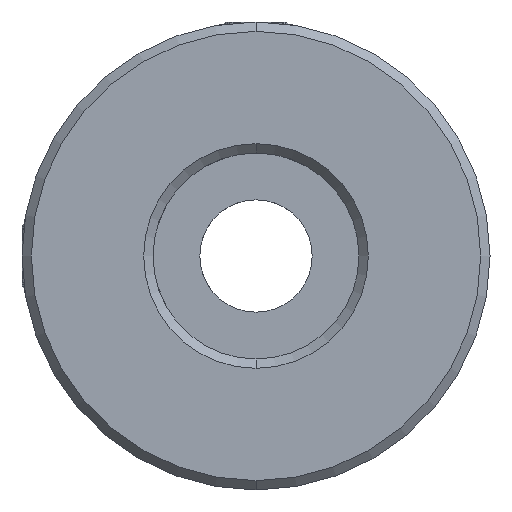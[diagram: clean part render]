
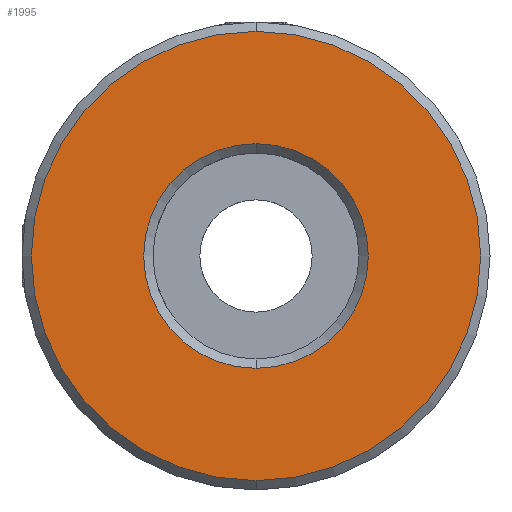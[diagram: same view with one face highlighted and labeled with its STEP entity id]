
A CAD part, front view. The second image highlights one B-rep face of the part: STEP entity #1995.
In plain terms, the highlighted planar face has unit normal (0, -1, 0).
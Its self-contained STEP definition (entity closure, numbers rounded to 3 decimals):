
#130 = ORIENTED_EDGE ( 'NONE', *, *, #920, .T. ) ;
#230 = CARTESIAN_POINT ( 'NONE',  ( -10.188, -0.277, 0.046 ) ) ;
#436 = DIRECTION ( 'NONE',  ( 0., 0., 1. ) ) ;
#452 = AXIS2_PLACEMENT_3D ( 'NONE', #3665, #2153, #436 ) ;
#581 = DIRECTION ( 'NONE',  ( 0., 1., 0. ) ) ;
#783 = CARTESIAN_POINT ( 'NONE',  ( -10.188, -0.277, 12.046 ) ) ;
#867 = AXIS2_PLACEMENT_3D ( 'NONE', #230, #2524, #2188 ) ;
#920 = EDGE_CURVE ( 'NONE', #1316, #1389, #3164, .T. ) ;
#1066 = CARTESIAN_POINT ( 'NONE',  ( -10.188, -0.277, 0.046 ) ) ;
#1091 = ORIENTED_EDGE ( 'NONE', *, *, #2778, .T. ) ;
#1146 = VERTEX_POINT ( 'NONE', #3247 ) ;
#1159 = CIRCLE ( 'NONE', #2839, 6. ) ;
#1316 = VERTEX_POINT ( 'NONE', #2099 ) ;
#1318 = EDGE_CURVE ( 'NONE', #1389, #1316, #2981, .T. ) ;
#1389 = VERTEX_POINT ( 'NONE', #783 ) ;
#1457 = CARTESIAN_POINT ( 'NONE',  ( -10.188, -0.277, 0.046 ) ) ;
#1492 = FACE_OUTER_BOUND ( 'NONE', #3689, .T. ) ;
#1505 = ORIENTED_EDGE ( 'NONE', *, *, #1318, .T. ) ;
#1810 = CIRCLE ( 'NONE', #2537, 6. ) ;
#1875 = CARTESIAN_POINT ( 'NONE',  ( -10.188, -0.277, 0.046 ) ) ;
#1995 = ADVANCED_FACE ( 'NONE', ( #1492, #3719 ), #3176, .F. ) ;
#2006 = VERTEX_POINT ( 'NONE', #3196 ) ;
#2099 = CARTESIAN_POINT ( 'NONE',  ( -10.188, -0.277, -11.954 ) ) ;
#2153 = DIRECTION ( 'NONE',  ( 0., -1., 0. ) ) ;
#2188 = DIRECTION ( 'NONE',  ( 0., 0., 1. ) ) ;
#2213 = EDGE_CURVE ( 'NONE', #1146, #2006, #1810, .T. ) ;
#2424 = DIRECTION ( 'NONE',  ( 0., 0., 1. ) ) ;
#2524 = DIRECTION ( 'NONE',  ( 0., -1., 0. ) ) ;
#2537 = AXIS2_PLACEMENT_3D ( 'NONE', #1066, #3352, #3038 ) ;
#2660 = ORIENTED_EDGE ( 'NONE', *, *, #2213, .T. ) ;
#2756 = DIRECTION ( 'NONE',  ( 0., 1., 0. ) ) ;
#2778 = EDGE_CURVE ( 'NONE', #2006, #1146, #1159, .T. ) ;
#2839 = AXIS2_PLACEMENT_3D ( 'NONE', #1875, #2756, #2424 ) ;
#2936 = EDGE_LOOP ( 'NONE', ( #2660, #1091 ) ) ;
#2981 = CIRCLE ( 'NONE', #452, 12. ) ;
#3038 = DIRECTION ( 'NONE',  ( 0., 0., 1. ) ) ;
#3164 = CIRCLE ( 'NONE', #867, 12. ) ;
#3176 = PLANE ( 'NONE',  #3273 ) ;
#3196 = CARTESIAN_POINT ( 'NONE',  ( -10.188, -0.277, 6.046 ) ) ;
#3247 = CARTESIAN_POINT ( 'NONE',  ( -10.188, -0.277, -5.954 ) ) ;
#3273 = AXIS2_PLACEMENT_3D ( 'NONE', #1457, #581, #3460 ) ;
#3352 = DIRECTION ( 'NONE',  ( 0., 1., 0. ) ) ;
#3460 = DIRECTION ( 'NONE',  ( 0., 0., 1. ) ) ;
#3665 = CARTESIAN_POINT ( 'NONE',  ( -10.188, -0.277, 0.046 ) ) ;
#3689 = EDGE_LOOP ( 'NONE', ( #1505, #130 ) ) ;
#3719 = FACE_BOUND ( 'NONE', #2936, .T. ) ;
